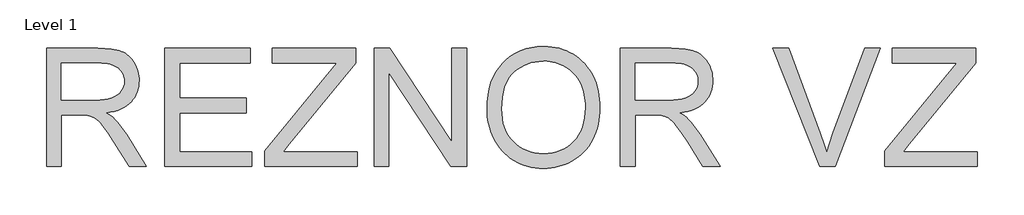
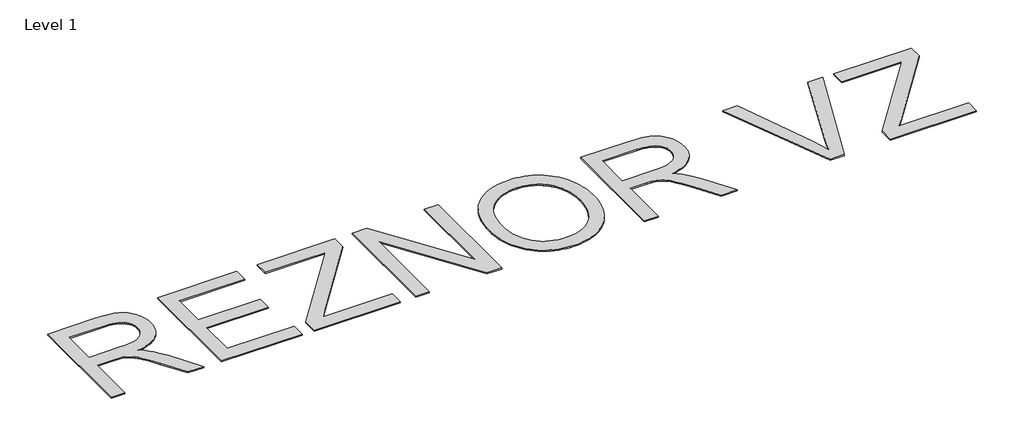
# One storey, incomplete: 1 proxy.
"""IFC4 building model written with IfcOpenShell, lengths in millimetres."""

from ifc_helpers import new_model, si_unit, origin, origin_with_axes, place, context, project, spatial, polyline, outline, extrude, element, save

model = new_model("IFC4")

# Units and contexts
model_context = context("Model", 3, world=origin())
ifc_project = project(units=[si_unit("LENGTHUNIT", "METRE", prefix="MILLI")], contexts=[model_context])

# Site, building, storey
site = spatial("IfcSite", under=ifc_project)
building = spatial("IfcBuilding", under=site)
storey = spatial("IfcBuildingStorey", under=building, Name="Level 1", Elevation=0.0)

# Proxy
placement = place(None, origin())
element("IfcBuildingElementProxy", 1, Name="96\" Arial", ObjectType="96\" Arial", at=placement, inside=storey, context=model_context, shape_type="SweptSolid", body=[
    extrude(outline(polyline([(-61378.0854006, -8620.2365183), (-61378.0854006, -6174.2598902), (-60324.094007, -6174.2598902), (-60172.80668, -6178.3840421), (-60040.8151586, -6190.7564978), (-59928.1194428, -6211.3772571), (-59879.0075121, -6224.7807507), (-59834.7195327, -6240.2463203), (-59793.8978936, -6258.32914), (-59755.1849838, -6279.5843843), (-59718.5808032, -6304.0120531), (-59684.0853519, -6331.6121465), (-59651.6986298, -6362.3846643), (-59621.420637, -6396.3296067), (-59593.2513734, -6433.4469736), (-59567.190839, -6473.736765), (-59543.7475549, -6516.1586123), (-59523.4300419, -6559.6721469), (-59506.2383002, -6604.2773687), (-59492.1723297, -6649.9742778), (-59481.2321305, -6696.7628741), (-59473.4177024, -6744.6431577), (-59468.7290456, -6793.6151286), (-59467.16616, -6843.6787867), (-59469.7554182, -6907.7804234), (-59477.523193, -6969.3067978), (-59490.4694842, -7028.2579099), (-59508.594292, -7084.6337597), (-59531.8976162, -7138.4343473), (-59560.3794569, -7189.6596727), (-59594.0398142, -7238.3097358), (-59632.8786879, -7284.3845366), (-59677.1293446, -7327.1282917), (-59727.0250509, -7365.7852175), (-59782.5658066, -7400.3553142), (-59843.7516119, -7430.8385815), (-59910.5824667, -7457.2350197), (-59983.058371, -7479.5446286), (-60061.1793248, -7497.7674083), (-60144.9453282, -7511.9033587), (-60091.0887566, -7544.9338964), (-60044.1741963, -7577.7404982), (-60004.2016474, -7610.3231641), (-59971.1711097, -7642.6818942), (-59908.2078136, -7714.7519148), (-59845.9163251, -7791.2260071), (-59723.3487707, -7957.3864067), (-59315.4869453, -8620.2365183), (-59670.7984916, -8620.2365183), (-59989.0859776, -8113.2457572), (-60116.4308301, -7919.7651841), (-60218.9934487, -7777.6405656), (-60262.9035364, -7724.0639139), (-60304.4622976, -7679.7805998), (-60343.6697324, -7644.7906235), (-60380.5258408, -7619.0939849), (-60452.5585387, -7583.4881849), (-60489.0787434, -7570.5558897), (-60525.9348518, -7560.8706642), (-60597.4450327, -7552.8089737), (-60703.2920438, -7550.1217435), (-61072.3383221, -7550.1217435), (-61072.3383221, -8620.2365183), (-61378.0854006, -8620.2365183)]), holes=[polyline([(-61072.3383221, -7244.374665), (-60387.9903691, -7244.374665), (-60284.2147646, -7241.6687735), (-60191.4493394, -7233.551099), (-60109.6940933, -7220.0216415), (-60038.9490265, -7201.080401), (-59977.6279267, -7176.1861991), (-59924.1445815, -7144.7978577), (-59878.4989911, -7106.9153767), (-59840.6911553, -7062.538756), (-59811.0383167, -7013.8513703), (-59789.8577177, -6963.036594), (-59777.1493583, -6910.0944271), (-59772.9132385, -6855.0248697), (-59774.9333265, -6815.0243288), (-59780.9935904, -6776.833936), (-59791.0940302, -6740.4536912), (-59805.234646, -6705.8835946), (-59823.4154377, -6673.1236461), (-59845.6364053, -6642.1738457), (-59871.8975489, -6613.0341934), (-59902.1988684, -6585.7046892), (-59936.8669369, -6560.931786), (-59976.2283276, -6539.4619365), (-60020.2830405, -6521.2951408), (-60069.0310755, -6506.4313989), (-60122.4724327, -6494.8707107), (-60180.607112, -6486.6130763), (-60243.4351135, -6481.6584956), (-60310.9564372, -6480.0069688), (-61072.3383221, -6480.0069688), (-61072.3383221, -7244.374665)])]), origin_with_axes(), (0.0, 0.0, 1.0), 25.4),
    extrude(outline(polyline([(-58932.1087726, -8620.2365183), (-58932.1087726, -6174.2598902), (-57174.0630712, -6174.2598902), (-57174.0630712, -6480.0069688), (-58626.3616941, -6480.0069688), (-58626.3616941, -7206.1562802), (-57250.4998408, -7206.1562802), (-57250.4998408, -7511.9033587), (-58626.3616941, -7511.9033587), (-58626.3616941, -8314.4894398), (-57135.8446864, -8314.4894398), (-57135.8446864, -8620.2365183), (-58932.1087726, -8620.2365183)])), origin_with_axes(), (0.0, 0.0, 1.0), 25.4),
    extrude(outline(polyline([(-56868.3159927, -8620.2365183), (-56868.3159927, -8303.1433568), (-55617.8582146, -6770.8249907), (-55380.187634, -6480.0069688), (-56715.4424534, -6480.0069688), (-56715.4424534, -6174.2598902), (-54995.6151369, -6174.2598902), (-54995.6151369, -6480.0069688), (-56364.311043, -8156.8386024), (-56493.2980917, -8314.4894398), (-54957.396752, -8314.4894398), (-54957.396752, -8620.2365183), (-56868.3159927, -8620.2365183)])), origin_with_axes(), (0.0, 0.0, 1.0), 25.4),
    extrude(outline(polyline([(-54613.4312887, -8620.2365183), (-54613.4312887, -6174.2598902), (-54286.1863688, -6174.2598902), (-53008.2591266, -8112.0514327), (-53008.2591266, -6174.2598902), (-52702.5120481, -6174.2598902), (-52702.5120481, -8620.2365183), (-53029.756968, -8620.2365183), (-54307.6842102, -6681.8478135), (-54307.6842102, -8620.2365183), (-54613.4312887, -8620.2365183)])), origin_with_axes(), (0.0, 0.0, 1.0), 25.4),
    extrude(outline(polyline([(-52282.1098151, -7429.4949665), (-52277.0152746, -7281.9305729), (-52261.7316529, -7142.5958219), (-52236.2589501, -7011.4907132), (-52200.5971663, -6888.615247), (-52154.7463013, -6773.9694232), (-52098.7063552, -6667.5532419), (-52032.477328, -6569.366703), (-51956.0592197, -6479.4098065), (-51871.5887515, -6398.9328609), (-51781.2026446, -6329.1861748), (-51684.9008991, -6270.169748), (-51582.6835149, -6221.8835807), (-51474.5504921, -6184.3276728), (-51360.5018306, -6157.5020242), (-51240.5375304, -6141.4066351), (-51114.6575915, -6136.0415054), (-51031.3441252, -6138.5607837), (-50950.1020655, -6146.1186186), (-50870.9314124, -6158.7150101), (-50793.8321659, -6176.3499582), (-50718.804326, -6199.0234628), (-50645.8478927, -6226.7355241), (-50574.962866, -6259.4861419), (-50506.1492458, -6297.2753164), (-50440.3867517, -6339.5711998), (-50378.6551027, -6385.8419445), (-50320.9542991, -6436.0875505), (-50267.2843408, -6490.3080178), (-50217.6452277, -6548.5033464), (-50172.0369599, -6610.6735364), (-50130.4595373, -6676.8185876), (-50092.91296, -6746.9385002), (-50059.6025026, -6820.2588292), (-50030.7334394, -6896.00513), (-50006.3057706, -6974.1774025), (-49986.3194961, -7054.7756466), (-49970.774616, -7137.7998624), (-49959.6711302, -7223.25005), (-49953.0090387, -7311.1262092), (-49950.7883415, -7401.4283401), (-49953.1256719, -7492.9154649), (-49960.1376632, -7581.9579566), (-49971.8243153, -7668.5558154), (-49988.1856282, -7752.7090411), (-50009.221602, -7834.4176339), (-50034.9322366, -7913.6815936), (-50065.317532, -7990.5009203), (-50100.3774883, -8064.875614), (-50139.724883, -8135.807294), (-50182.9724938, -8202.2975797), (-50230.1203206, -8264.346471), (-50281.1683634, -8321.9539681), (-50336.1166222, -8375.1200708), (-50394.965097, -8423.8447791), (-50457.7137879, -8468.1280932), (-50524.3626948, -8507.9700129), (-50593.6381827, -8543.239909), (-50664.2666162, -8573.8071524), (-50736.2479955, -8599.6717429), (-50809.5823206, -8620.8336805), (-50884.2695914, -8637.2929654), (-50960.3098079, -8649.0495975), (-51037.7029703, -8656.1035767), (-51116.4490783, -8658.4549031), (-51201.3021036, -8655.8563142), (-51283.8784477, -8648.0605475), (-51364.1781107, -8635.0676029), (-51442.2010926, -8616.8774806), (-51517.9473934, -8593.4901804), (-51591.417013, -8564.9057024), (-51662.6099515, -8531.1240466), (-51731.5262089, -8492.1452129), (-51797.2513804, -8448.6736663), (-51858.8710614, -8401.4138716), (-51916.3852519, -8350.3658288), (-51969.7939517, -8295.5295379), (-52019.097161, -8236.9049989), (-52064.2948798, -8174.4922118), (-52105.387108, -8108.2911766), (-52142.3738456, -8038.3018933), (-52175.1244635, -7965.8913036), (-52203.5083323, -7892.4263493), (-52227.525452, -7817.9070304), (-52247.1758228, -7742.3333468), (-52262.4594444, -7665.7052987), (-52273.376317, -7588.0228859), (-52279.9264406, -7509.2861085), (-52282.1098151, -7429.4949665)]), holes=[polyline([(-51976.3627366, -7432.4807778), (-51972.5418312, -7536.6762619), (-51961.079115, -7635.1800433), (-51941.9745879, -7727.9921219), (-51915.22825, -7815.1124976), (-51880.8401012, -7896.5411705), (-51838.8101417, -7972.2781406), (-51789.1383713, -8042.3234079), (-51731.82479, -8106.6769724), (-51668.7448607, -8164.3404534), (-51601.774046, -8214.3154702), (-51530.9123459, -8256.6020229), (-51456.1597605, -8291.2001115), (-51377.5162897, -8318.109736), (-51294.9819335, -8337.3308963), (-51208.556692, -8348.8635925), (-51118.2405651, -8352.7078246), (-51026.2729113, -8348.8262699), (-50938.4760627, -8337.1816058), (-50854.8500193, -8317.7738322), (-50775.394781, -8290.6029493), (-50700.110348, -8255.6689569), (-50628.9967201, -8212.9718551), (-50562.0538974, -8162.5116439), (-50499.2818798, -8104.2883233), (-50442.3881783, -8038.9270475), (-50393.0803037, -7967.0529708), (-50351.3582559, -7888.6660932), (-50317.222035, -7803.7664146), (-50290.6716409, -7712.3539351), (-50271.7070738, -7614.4286547), (-50260.3283335, -7509.9905733), (-50256.53542, -7399.0396911), (-50258.1589549, -7327.9307285), (-50263.0295596, -7259.1171084), (-50271.1472341, -7192.5988307), (-50282.5119785, -7128.3758955), (-50297.1237926, -7066.4483027), (-50314.9826765, -7006.8160524), (-50336.0886302, -6949.4791445), (-50360.4416537, -6894.4375791), (-50387.9157831, -6842.0599172), (-50418.3850545, -6792.7147199), (-50451.8494679, -6746.4019872), (-50488.3090232, -6703.1217192), (-50527.7637205, -6662.8739157), (-50570.2135598, -6625.6585769), (-50615.6585411, -6591.4757027), (-50664.0986643, -6560.3252931), (-50714.806138, -6532.5432519), (-50767.0531707, -6508.4654828), (-50820.8397623, -6488.0919859), (-50876.1659129, -6471.4227612), (-50933.0316224, -6458.4578087), (-50991.4368909, -6449.1971283), (-51051.3817183, -6443.64072), (-51112.8661047, -6441.7885839), (-51199.7065607, -6445.3575615), (-51283.4678987, -6456.0644943), (-51364.1501188, -6473.9093822), (-51441.7532209, -6498.8922253), (-51516.2772052, -6531.0130236), (-51587.7220715, -6570.271777), (-51656.0878199, -6616.6684856), (-51721.3744504, -6670.2031494), (-51781.13733, -6732.0794236), (-51832.9318256, -6803.5009633), (-51876.7579373, -6884.4677685), (-51912.6156651, -6974.9798393), (-51940.5050089, -7075.0371756), (-51960.4259687, -7184.6397774), (-51972.3785446, -7303.7876448), (-51976.3627366, -7432.4807778)])]), origin_with_axes(), (0.0, 0.0, 1.0), 25.4),
    extrude(outline(polyline([(-49530.3861086, -8620.2365183), (-49530.3861086, -6174.2598902), (-48476.3947149, -6174.2598902), (-48325.1073879, -6178.3840421), (-48193.1158665, -6190.7564978), (-48080.4201508, -6211.3772571), (-48031.30822, -6224.7807507), (-47987.0202406, -6240.2463203), (-47946.1986016, -6258.32914), (-47907.4856917, -6279.5843843), (-47870.8815112, -6304.0120531), (-47836.3860598, -6331.6121465), (-47803.9993378, -6362.3846643), (-47773.7213449, -6396.3296067), (-47745.5520813, -6433.4469736), (-47719.4915469, -6473.736765), (-47696.0482628, -6516.1586123), (-47675.7307499, -6559.6721469), (-47658.5390082, -6604.2773687), (-47644.4730377, -6649.9742778), (-47633.5328384, -6696.7628741), (-47625.7184104, -6744.6431577), (-47621.0297535, -6793.6151286), (-47619.4668679, -6843.6787867), (-47622.0561262, -6907.7804234), (-47629.8239009, -6969.3067978), (-47642.7701922, -7028.2579099), (-47660.8949999, -7084.6337597), (-47684.1983241, -7138.4343473), (-47712.6801649, -7189.6596727), (-47746.3405221, -7238.3097358), (-47785.1793958, -7284.3845366), (-47829.4300526, -7327.1282917), (-47879.3257588, -7365.7852175), (-47934.8665146, -7400.3553142), (-47996.0523198, -7430.8385815), (-48062.8831746, -7457.2350197), (-48135.3590789, -7479.5446286), (-48213.4800328, -7497.7674083), (-48297.2460361, -7511.9033587), (-48243.3894645, -7544.9338964), (-48196.4749043, -7577.7404982), (-48156.5023553, -7610.3231641), (-48123.4718176, -7642.6818942), (-48060.5085216, -7714.7519148), (-47998.217033, -7791.2260071), (-47875.6494786, -7957.3864067), (-47467.7876532, -8620.2365183), (-47823.0991995, -8620.2365183), (-48141.3866855, -8113.2457572), (-48268.731538, -7919.7651841), (-48371.2941567, -7777.6405656), (-48415.2042443, -7724.0639139), (-48456.7630055, -7679.7805998), (-48495.9704403, -7644.7906235), (-48532.8265487, -7619.0939849), (-48604.8592467, -7583.4881849), (-48641.3794513, -7570.5558897), (-48678.2355597, -7560.8706642), (-48749.7457407, -7552.8089737), (-48855.5927517, -7550.1217435), (-49224.6390301, -7550.1217435), (-49224.6390301, -8620.2365183), (-49530.3861086, -8620.2365183)]), holes=[polyline([(-49224.6390301, -7244.374665), (-48540.291077, -7244.374665), (-48436.5154725, -7241.6687735), (-48343.7500473, -7233.551099), (-48261.9948013, -7220.0216415), (-48191.2497345, -7201.080401), (-48129.9286346, -7176.1861991), (-48076.4452895, -7144.7978577), (-48030.799699, -7106.9153767), (-47992.9918632, -7062.538756), (-47963.3390246, -7013.8513703), (-47942.1584256, -6963.036594), (-47929.4500662, -6910.0944271), (-47925.2139464, -6855.0248697), (-47927.2340344, -6815.0243288), (-47933.2942983, -6776.833936), (-47943.3947381, -6740.4536912), (-47957.5353539, -6705.8835946), (-47975.7161456, -6673.1236461), (-47997.9371132, -6642.1738457), (-48024.1982568, -6613.0341934), (-48054.4995763, -6585.7046892), (-48089.1676448, -6560.931786), (-48128.5290356, -6539.4619365), (-48172.5837484, -6521.2951408), (-48221.3317834, -6506.4313989), (-48274.7731406, -6494.8707107), (-48332.90782, -6486.6130763), (-48395.7358215, -6481.6584956), (-48463.2571451, -6480.0069688), (-49224.6390301, -6480.0069688), (-49224.6390301, -7244.374665)])]), origin_with_axes(), (0.0, 0.0, 1.0), 25.4),
    extrude(outline(polyline([(-45406.9806846, -8620.2365183), (-46379.7580105, -6174.2598902), (-46052.5130906, -6174.2598902), (-45401.009062, -7936.4857275), (-45328.6031376, -8141.7602553), (-45269.0362019, -8333.5986322), (-45208.4242322, -8134.8928893), (-45138.8548286, -7936.4857275), (-44485.5593132, -6174.2598902), (-44158.9115555, -6174.2598902), (-45091.6790099, -8620.2365183), (-45406.9806846, -8620.2365183)])), origin_with_axes(), (0.0, 0.0, 1.0), 25.4),
    extrude(outline(polyline([(-44065.1570803, -8620.2365183), (-44065.1570803, -8303.1433568), (-42814.6993022, -6770.8249907), (-42577.0287216, -6480.0069688), (-43912.283541, -6480.0069688), (-43912.283541, -6174.2598902), (-42192.4562245, -6174.2598902), (-42192.4562245, -6480.0069688), (-43561.1521306, -8156.8386024), (-43690.1391793, -8314.4894398), (-42154.2378396, -8314.4894398), (-42154.2378396, -8620.2365183), (-44065.1570803, -8620.2365183)])), origin_with_axes(), (0.0, 0.0, 1.0), 25.4),
])

save(model, "model.ifc")
